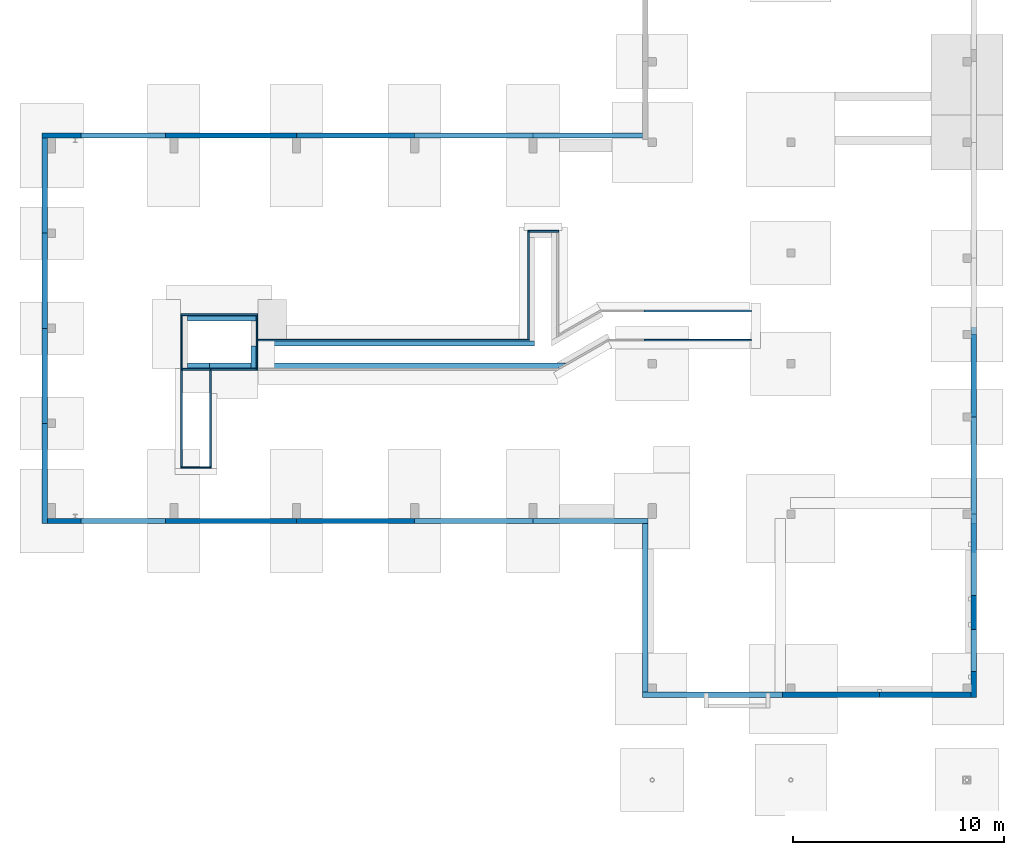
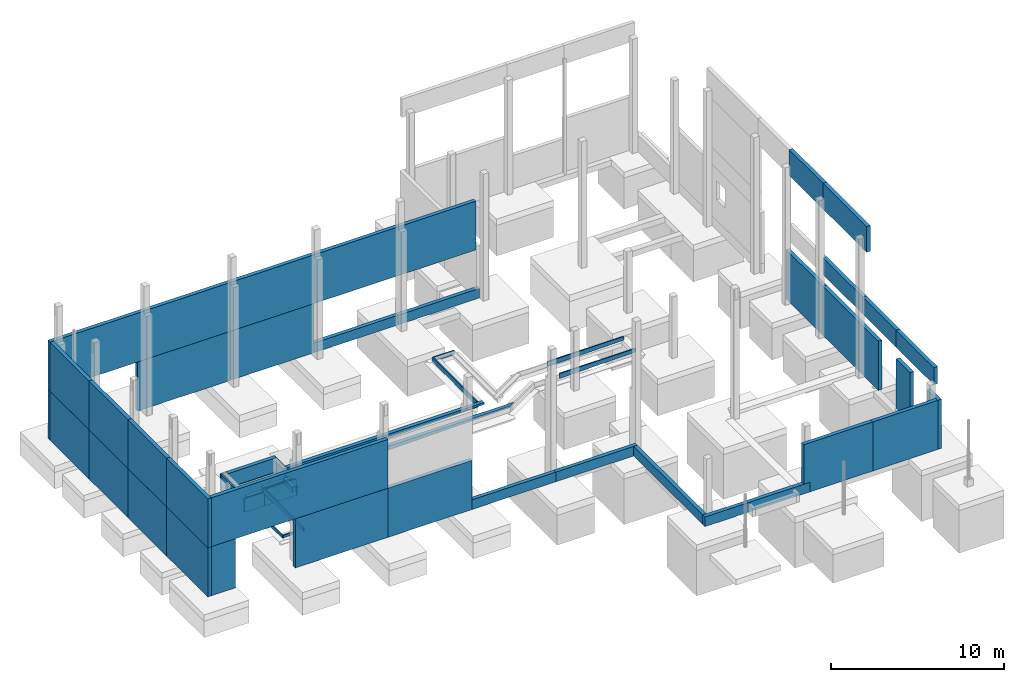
# One storey, part 9 of 12: 53 walls.
"""IFC4X3_ADD2 building model written with IfcOpenShell, lengths in millimetres."""

from ifc_helpers import new_model, si_unit, direction, frame, frame_2d, origin_with_axes, place, context, subcontext, project, spatial, polyline, rectangle, outline, extrude, clip, bounded_halfspace, material, layer, layer_set, type_object, element, save


model = new_model("IFC4X3_ADD2")

# Units and contexts
model_context = context("Model", 3, precision=1e-05, world=origin_with_axes(), true_north=direction((0.0, 1.0)))
body_context = subcontext(model_context, "Body", "Model", "MODEL_VIEW")
ifc_project = project(units=[si_unit("LENGTHUNIT", "METRE", prefix="MILLI"), si_unit("AREAUNIT", "SQUARE_METRE"), si_unit("VOLUMEUNIT", "CUBIC_METRE"), si_unit("PLANEANGLEUNIT", "RADIAN"), si_unit("TIMEUNIT", "SECOND"), si_unit("MASSUNIT", "GRAM")], contexts=[model_context])

# Site, building, storey
site_placement = place(None, origin_with_axes())
site = spatial("IfcSite", under=ifc_project, at=site_placement, Name="Site", CompositionType="ELEMENT")
building_placement = place(site_placement, origin_with_axes())
building = spatial("IfcBuilding", under=site, at=building_placement, Name="IFC Building Story")
storey_placement = place(building_placement, frame((0.0, 0.0, -800.0), z_axis=(0.0, 0.0, 1.0), x_axis=(1.0, 0.0, 0.0)))
storey = spatial("IfcBuildingStorey", under=building, at=storey_placement, Name="FOND 00 (0)", Elevation=-800.0)

# Walls
ifc_material_1 = material(Name="BS_28_Ossature en béton armé - Eléments préfabriqués(panneau façade)")
ifc_layer_1 = layer(ifc_material_1, 90.0)
ifc_material_2 = material(Name="BS_21_Isolation des murs extérieurs")
ifc_layer_2 = layer(ifc_material_2, 100.0)
ifc_layer_3 = layer(ifc_material_1, 60.0)
ifc_layer_set = layer_set([ifc_layer_1, ifc_layer_2, ifc_layer_3], Name="Mur de base:BS_21_WA_BTpréfab90-ISO100-BTlissépréfab60")
wall_type_1 = type_object("IfcWallType", Name="Mur de base:BS_21_WA_BTpréfab90-ISO100-BTlissépréfab60 250", PredefinedType="NOTDEFINED", material=ifc_layer_set)
wall_1_placement = place(storey_placement, origin_with_axes())
element("IfcWall", 1, at=wall_1_placement, inside=storey, type_object=wall_type_1, Name="Mur de base:BS_21_WA_BTpréfab90-ISO100-BTlissépréfab60", ObjectType="Mur de base:BS_21_WA_BTpréfab90-ISO100-BTlissépréfab60", context=body_context, shape_type="SweptSolid", body=[
    extrude(rectangle(XDim=5445.000000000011, YDim=250.0, at=frame_2d((0.0, 5.95523630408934e-12), x_axis=(1.0, 0.0))), frame((30474.1894781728, 18125.0000000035, 50.0), z_axis=(0.0, 0.0, 1.0), x_axis=(1.0, 0.0, 0.0)), (0.0, 0.0, 1.0), 680.0),
])
wall_2_placement = place(storey_placement, origin_with_axes())
element("IfcWall", 2, at=wall_2_placement, inside=storey, type_object=wall_type_1, Name="Mur de base:BS_21_WA_BTpréfab90-ISO100-BTlissépréfab60", ObjectType="Mur de base:BS_21_WA_BTpréfab90-ISO100-BTlissépréfab60", context=body_context, shape_type="SweptSolid", body=[
    extrude(rectangle(XDim=4750.000000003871, YDim=250.0000000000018, at=frame_2d((0.0, 5.95523630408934e-12), x_axis=(0.0, 1.0))), frame((4641.18947818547, 2125.00000000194, 50.0), z_axis=(0.0, 0.0, 1.0), x_axis=(1.0, 0.0, 0.0)), (0.0, 0.0, 1.0), 3469.0),
])
wall_3_placement = place(storey_placement, origin_with_axes())
element("IfcWall", 3, at=wall_3_placement, inside=storey, type_object=wall_type_1, Name="Mur de base:BS_21_WA_BTpréfab90-ISO100-BTlissépréfab60", ObjectType="Mur de base:BS_21_WA_BTpréfab90-ISO100-BTlissépréfab60", context=body_context, shape_type="SweptSolid", body=[
    extrude(rectangle(XDim=5449.999999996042, YDim=250.0, at=frame_2d((0.0, 5.95523630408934e-12), x_axis=(1.0, 0.0))), frame((30476.68947817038, -125.000000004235, 50.0), z_axis=(0.0, 0.0, 1.0), x_axis=(1.0, 0.0, 0.0)), (0.0, 0.0, 1.0), 680.0),
])
wall_4_placement = place(storey_placement, origin_with_axes())
element("IfcWall", 4, at=wall_4_placement, inside=storey, type_object=wall_type_1, Name="Mur de base:BS_21_WA_BTpréfab90-ISO100-BTlissépréfab60", ObjectType="Mur de base:BS_21_WA_BTpréfab90-ISO100-BTlissépréfab60", context=body_context, shape_type="SweptSolid", body=[
    extrude(rectangle(XDim=7979.70991332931, YDim=250.0000000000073, at=frame_2d((0.0, 5.95523630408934e-12), x_axis=(0.0, 1.0))), frame((33076.6894781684, -4239.854956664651, 50.0), z_axis=(0.0, 0.0, 1.0), x_axis=(1.0, 0.0, 0.0)), (0.0, 0.0, 1.0), 680.0),
])
wall_5_placement = place(storey_placement, origin_with_axes())
element("IfcWall", 5, at=wall_5_placement, inside=storey, type_object=wall_type_1, Name="Mur de base:BS_21_WA_BTpréfab90-ISO100-BTlissépréfab60", ObjectType="Mur de base:BS_21_WA_BTpréfab90-ISO100-BTlissépréfab60", context=body_context, shape_type="Clipping", body=[
    clip(extrude(outline(polyline([(2299.999999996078, -125.0), (-2299.999999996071, -125.0), (-2299.999999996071, 125.0), (2299.999999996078, 125.0), (2299.999999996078, -125.0)])), frame((41861.68947816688, -8355.00008672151, 50.0), z_axis=(0.0, 0.0, 1.0), x_axis=(1.0, 0.0, 0.0)), (0.0, 0.0, 1.0), 3469.0), bounded_halfspace(frame((0.0, 0.0, 730.0), z_axis=(0.0, 0.0, -1.0), x_axis=(-1.0, 0.0, 0.0)), False, frame((41861.68947816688, -8355.00008672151, 50.0), z_axis=(0.0, 0.0, 1.0), x_axis=(1.0, 0.0, 0.0)), polyline([(-2299.999999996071, -125.0), (-2299.999999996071, 125.0), (-1899.999999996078, 125.0), (-1899.999999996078, -125.0), (-2299.999999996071, -125.0)]))),
])
wall_6_placement = place(storey_placement, origin_with_axes())
element("IfcWall", 6, at=wall_6_placement, inside=storey, type_object=wall_type_1, Name="Mur de base:BS_21_WA_BTpréfab90-ISO100-BTlissépréfab60", ObjectType="Mur de base:BS_21_WA_BTpréfab90-ISO100-BTlissépréfab60", context=body_context, shape_type="SweptSolid", body=[
    extrude(rectangle(XDim=1599.99999999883, YDim=250.0, at=frame_2d((0.0, 5.95523630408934e-12), x_axis=(1.0, 0.0))), frame((5566.189478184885, -125.000000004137, 50.0), z_axis=(0.0, 0.0, 1.0), x_axis=(1.0, 0.0, 0.0)), (0.0, 0.0, 1.0), 3469.0),
])
wall_7_placement = place(storey_placement, origin_with_axes())
element("IfcWall", 7, at=wall_7_placement, inside=storey, type_object=wall_type_1, Name="Mur de base:BS_21_WA_BTpréfab90-ISO100-BTlissépréfab60", ObjectType="Mur de base:BS_21_WA_BTpréfab90-ISO100-BTlissépréfab60", context=body_context, shape_type="SweptSolid", body=[
    extrude(rectangle(XDim=6185.499999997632, YDim=250.0, at=frame_2d((0.0, 5.95523630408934e-12), x_axis=(1.0, 0.0))), frame((13458.93947818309, -125.000000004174, 50.0), z_axis=(0.0, 0.0, 1.0), x_axis=(1.0, 0.0, 0.0)), (0.0, 0.0, 1.0), 3469.0),
])
wall_8_placement = place(storey_placement, origin_with_axes())
element("IfcWall", 8, at=wall_8_placement, inside=storey, type_object=wall_type_1, Name="Mur de base:BS_21_WA_BTpréfab90-ISO100-BTlissépréfab60", ObjectType="Mur de base:BS_21_WA_BTpréfab90-ISO100-BTlissépréfab60", context=body_context, shape_type="SweptSolid", body=[
    extrude(rectangle(XDim=5599.999999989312, YDim=250.0, at=frame_2d((0.0, 5.95523630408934e-12), x_axis=(1.0, 0.0))), frame((19351.68947817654, -125.000000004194, 50.0), z_axis=(0.0, 0.0, 1.0), x_axis=(1.0, 0.0, 0.0)), (0.0, 0.0, 1.0), 3469.0),
])
wall_9_placement = place(storey_placement, origin_with_axes())
element("IfcWall", 9, at=wall_9_placement, inside=storey, type_object=wall_type_1, Name="Mur de base:BS_21_WA_BTpréfab90-ISO100-BTlissépréfab60", ObjectType="Mur de base:BS_21_WA_BTpréfab90-ISO100-BTlissépréfab60", context=body_context, shape_type="SweptSolid", body=[
    extrude(rectangle(XDim=5600.00000000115, YDim=250.0, at=frame_2d((0.0, 5.95523630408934e-12), x_axis=(1.0, 0.0))), frame((24951.68947817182, -125.000000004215, 50.0), z_axis=(0.0, 0.0, 1.0), x_axis=(1.0, 0.0, 0.0)), (0.0, 0.0, 1.0), 680.0),
])
wall_10_placement = place(storey_placement, origin_with_axes())
element("IfcWall", 10, at=wall_10_placement, inside=storey, type_object=wall_type_1, Name="Mur de base:BS_21_WA_BTpréfab90-ISO100-BTlissépréfab60", ObjectType="Mur de base:BS_21_WA_BTpréfab90-ISO100-BTlissépréfab60", context=body_context, shape_type="SweptSolid", body=[
    extrude(rectangle(XDim=11785.4999999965, YDim=250.0, at=frame_2d((0.0, 5.95523630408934e-12), x_axis=(1.0, 0.0))), frame((10658.93947818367, -125.000000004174, 3520.0), z_axis=(0.0, 0.0, 1.0), x_axis=(1.0, 0.0, 0.0)), (0.0, 0.0, 1.0), 3445.0),
])
wall_11_placement = place(storey_placement, origin_with_axes())
element("IfcWall", 11, at=wall_11_placement, inside=storey, type_object=wall_type_1, Name="Mur de base:BS_21_WA_BTpréfab90-ISO100-BTlissépréfab60", ObjectType="Mur de base:BS_21_WA_BTpréfab90-ISO100-BTlissépréfab60", context=body_context, shape_type="SweptSolid", body=[
    extrude(rectangle(XDim=4339.999999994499, YDim=250.0, at=frame_2d((0.0, 5.95523630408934e-12), x_axis=(1.0, 0.0))), frame((46331.68947816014, -8355.00008672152, 50.0), z_axis=(0.0, 0.0, 1.0), x_axis=(1.0, 0.0, 0.0)), (0.0, 0.0, 1.0), 3469.0),
])
wall_12_placement = place(storey_placement, origin_with_axes())
element("IfcWall", 12, at=wall_12_placement, inside=storey, type_object=wall_type_1, Name="Mur de base:BS_21_WA_BTpréfab90-ISO100-BTlissépréfab60", ObjectType="Mur de base:BS_21_WA_BTpréfab90-ISO100-BTlissépréfab60", context=body_context, shape_type="SweptSolid", body=[
    extrude(rectangle(XDim=4750.000000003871, YDim=250.0000000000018, at=frame_2d((0.0, 5.95523630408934e-12), x_axis=(0.0, 1.0))), frame((4641.18947818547, 2125.00000000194, 3520.0), z_axis=(0.0, 0.0, 1.0), x_axis=(1.0, 0.0, 0.0)), (0.0, 0.0, 1.0), 3445.0),
])
wall_13_placement = place(storey_placement, origin_with_axes())
element("IfcWall", 13, at=wall_13_placement, inside=storey, type_object=wall_type_1, Name="Mur de base:BS_21_WA_BTpréfab90-ISO100-BTlissépréfab60", ObjectType="Mur de base:BS_21_WA_BTpréfab90-ISO100-BTlissépréfab60", context=body_context, shape_type="SweptSolid", body=[
    extrude(rectangle(XDim=4500.000000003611, YDim=250.0000000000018, at=frame_2d((0.0, 5.95523630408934e-12), x_axis=(0.0, 1.0))), frame((4641.18947818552, 15750.0000000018, 3520.0), z_axis=(0.0, 0.0, 1.0), x_axis=(1.0, 0.0, 0.0)), (0.0, 0.0, 1.0), 3445.0),
])
wall_14_placement = place(storey_placement, origin_with_axes())
element("IfcWall", 14, at=wall_14_placement, inside=storey, type_object=wall_type_1, Name="Mur de base:BS_21_WA_BTpréfab90-ISO100-BTlissépréfab60", ObjectType="Mur de base:BS_21_WA_BTpréfab90-ISO100-BTlissépréfab60", context=body_context, shape_type="SweptSolid", body=[
    extrude(rectangle(XDim=4500.00000000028, YDim=250.0000000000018, at=frame_2d((0.0, 5.95523630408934e-12), x_axis=(0.0, 1.0))), frame((4641.1894781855, 11250.00000000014, 3520.0), z_axis=(0.0, 0.0, 1.0), x_axis=(1.0, 0.0, 0.0)), (0.0, 0.0, 1.0), 3445.0),
])
wall_15_placement = place(storey_placement, origin_with_axes())
element("IfcWall", 15, at=wall_15_placement, inside=storey, type_object=wall_type_1, Name="Mur de base:BS_21_WA_BTpréfab90-ISO100-BTlissépréfab60", ObjectType="Mur de base:BS_21_WA_BTpréfab90-ISO100-BTlissépréfab60", context=body_context, shape_type="SweptSolid", body=[
    extrude(rectangle(XDim=4499.999999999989, YDim=250.0, at=frame_2d((0.0, 5.95523630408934e-12), x_axis=(0.0, 1.0))), frame((4641.18947818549, 6750.0, 3520.0), z_axis=(0.0, 0.0, 1.0), x_axis=(1.0, 0.0, 0.0)), (0.0, 0.0, 1.0), 3445.0),
])
wall_16_placement = place(storey_placement, origin_with_axes())
element("IfcWall", 16, at=wall_16_placement, inside=storey, type_object=wall_type_1, Name="Mur de base:BS_21_WA_BTpréfab90-ISO100-BTlissépréfab60", ObjectType="Mur de base:BS_21_WA_BTpréfab90-ISO100-BTlissépréfab60", context=body_context, shape_type="SweptSolid", body=[
    extrude(rectangle(XDim=4500.000000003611, YDim=250.0000000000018, at=frame_2d((0.0, 5.95523630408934e-12), x_axis=(0.0, 1.0))), frame((4641.18947818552, 15750.0000000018, 50.0), z_axis=(0.0, 0.0, 1.0), x_axis=(1.0, 0.0, 0.0)), (0.0, 0.0, 1.0), 3469.0),
])
wall_17_placement = place(storey_placement, origin_with_axes())
element("IfcWall", 17, at=wall_17_placement, inside=storey, type_object=wall_type_1, Name="Mur de base:BS_21_WA_BTpréfab90-ISO100-BTlissépréfab60", ObjectType="Mur de base:BS_21_WA_BTpréfab90-ISO100-BTlissépréfab60", context=body_context, shape_type="SweptSolid", body=[
    extrude(rectangle(XDim=4500.00000000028, YDim=250.0000000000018, at=frame_2d((0.0, 5.95523630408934e-12), x_axis=(0.0, 1.0))), frame((4641.1894781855, 11250.00000000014, 50.0), z_axis=(0.0, 0.0, 1.0), x_axis=(1.0, 0.0, 0.0)), (0.0, 0.0, 1.0), 3469.0),
])
wall_18_placement = place(storey_placement, origin_with_axes())
element("IfcWall", 18, at=wall_18_placement, inside=storey, type_object=wall_type_1, Name="Mur de base:BS_21_WA_BTpréfab90-ISO100-BTlissépréfab60", ObjectType="Mur de base:BS_21_WA_BTpréfab90-ISO100-BTlissépréfab60", context=body_context, shape_type="SweptSolid", body=[
    extrude(rectangle(XDim=4499.99999999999, YDim=250.0, at=frame_2d((0.0, 5.95523630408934e-12), x_axis=(0.0, 1.0))), frame((4641.18947818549, 6749.999999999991, 50.0), z_axis=(0.0, 0.0, 1.0), x_axis=(1.0, 0.0, 0.0)), (0.0, 0.0, 1.0), 3469.0),
])
wall_19_placement = place(storey_placement, origin_with_axes())
element("IfcWall", 19, at=wall_19_placement, inside=storey, type_object=wall_type_1, Name="Mur de base:BS_21_WA_BTpréfab90-ISO100-BTlissépréfab60", ObjectType="Mur de base:BS_21_WA_BTpréfab90-ISO100-BTlissépréfab60", context=body_context, shape_type="SweptSolid", body=[
    extrude(rectangle(XDim=16400.0000000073, YDim=250.0, at=frame_2d((0.0, 5.95523630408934e-12), x_axis=(1.0, 0.0))), frame((24751.68947818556, 18125.0000000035, 3520.0), z_axis=(0.0, 0.0, 1.0), x_axis=(1.0, 0.0, 0.0)), (0.0, 0.0, 1.0), 3445.0),
])
wall_20_placement = place(storey_placement, origin_with_axes())
element("IfcWall", 20, at=wall_20_placement, inside=storey, type_object=wall_type_1, Name="Mur de base:BS_21_WA_BTpréfab90-ISO100-BTlissépréfab60", ObjectType="Mur de base:BS_21_WA_BTpréfab90-ISO100-BTlissépréfab60", context=body_context, shape_type="SweptSolid", body=[
    extrude(rectangle(XDim=1850.0, YDim=250.0, at=frame_2d((0.0, 5.95523630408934e-12), x_axis=(1.0, 0.0))), frame((5441.189478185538, 18125.0000000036, 50.0), z_axis=(0.0, 0.0, 1.0), x_axis=(1.0, 0.0, 0.0)), (0.0, 0.0, 1.0), 3469.0),
])
wall_21_placement = place(storey_placement, origin_with_axes())
element("IfcWall", 21, at=wall_21_placement, inside=storey, type_object=wall_type_1, Name="Mur de base:BS_21_WA_BTpréfab90-ISO100-BTlissépréfab60", ObjectType="Mur de base:BS_21_WA_BTpréfab90-ISO100-BTlissépréfab60", context=body_context, shape_type="SweptSolid", body=[
    extrude(rectangle(XDim=6185.49999999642, YDim=250.0, at=frame_2d((0.0, 5.95523630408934e-12), x_axis=(1.0, 0.0))), frame((13458.93947818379, 18125.0000000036, 50.0), z_axis=(0.0, 0.0, 1.0), x_axis=(1.0, 0.0, 0.0)), (0.0, 0.0, 1.0), 3469.0),
])
wall_22_placement = place(storey_placement, origin_with_axes())
element("IfcWall", 22, at=wall_22_placement, inside=storey, type_object=wall_type_1, Name="Mur de base:BS_21_WA_BTpréfab90-ISO100-BTlissépréfab60", ObjectType="Mur de base:BS_21_WA_BTpréfab90-ISO100-BTlissépréfab60", context=body_context, shape_type="SweptSolid", body=[
    extrude(rectangle(XDim=5574.999999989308, YDim=250.0, at=frame_2d((0.0, 5.95523630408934e-12), x_axis=(1.0, 0.0))), frame((19364.18947817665, 18125.0000000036, 50.0), z_axis=(0.0, 0.0, 1.0), x_axis=(1.0, 0.0, 0.0)), (0.0, 0.0, 1.0), 3469.0),
])
wall_23_placement = place(storey_placement, origin_with_axes())
element("IfcWall", 23, at=wall_23_placement, inside=storey, type_object=wall_type_1, Name="Mur de base:BS_21_WA_BTpréfab90-ISO100-BTlissépréfab60", ObjectType="Mur de base:BS_21_WA_BTpréfab90-ISO100-BTlissépréfab60", context=body_context, shape_type="SweptSolid", body=[
    extrude(rectangle(XDim=5600.000000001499, YDim=250.0, at=frame_2d((0.0, 5.95523630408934e-12), x_axis=(1.0, 0.0))), frame((24951.68947817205, 18125.0000000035, 50.0), z_axis=(0.0, 0.0, 1.0), x_axis=(1.0, 0.0, 0.0)), (0.0, 0.0, 1.0), 680.0),
])
wall_24_placement = place(storey_placement, origin_with_axes())
element("IfcWall", 24, at=wall_24_placement, inside=storey, type_object=wall_type_1, Name="Mur de base:BS_21_WA_BTpréfab90-ISO100-BTlissépréfab60", ObjectType="Mur de base:BS_21_WA_BTpréfab90-ISO100-BTlissépréfab60", context=body_context, shape_type="SweptSolid", body=[
    extrude(rectangle(XDim=12035.4999999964, YDim=249.9999999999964, at=frame_2d((0.0, 5.95523630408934e-12), x_axis=(1.0, 0.0))), frame((10533.93947818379, 18125.0000000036, 3520.0), z_axis=(0.0, 0.0, 1.0), x_axis=(1.0, 0.0, 0.0)), (0.0, 0.0, 1.0), 3445.0),
])
wall_25_placement = place(storey_placement, origin_with_axes())
element("IfcWall", 25, at=wall_25_placement, inside=storey, type_object=wall_type_1, Name="Mur de base:BS_21_WA_BTpréfab90-ISO100-BTlissépréfab60", ObjectType="Mur de base:BS_21_WA_BTpréfab90-ISO100-BTlissépréfab60", context=body_context, shape_type="SweptSolid", body=[
    extrude(rectangle(XDim=5049.419826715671, YDim=249.9999999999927, at=frame_2d((0.0, 5.95523630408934e-12), x_axis=(0.0, 1.0))), frame((48626.68947815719, 2274.70991335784, 8976.0), z_axis=(0.0, 0.0, 1.0), x_axis=(1.0, 0.0, 0.0)), (0.0, 0.0, 1.0), 1814.0),
])
wall_26_placement = place(storey_placement, origin_with_axes())
element("IfcWall", 26, at=wall_26_placement, inside=storey, type_object=wall_type_1, Name="Mur de base:BS_21_WA_BTpréfab90-ISO100-BTlissépréfab60", ObjectType="Mur de base:BS_21_WA_BTpréfab90-ISO100-BTlissépréfab60", context=body_context, shape_type="SweptSolid", body=[
    extrude(rectangle(XDim=4255.0, YDim=250.0, at=frame_2d((0.0, 5.95523630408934e-12), x_axis=(0.0, 1.0))), frame((48626.68947815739, 6926.919826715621, 50.0), z_axis=(0.0, 0.0, 1.0), x_axis=(1.0, 0.0, 0.0)), (0.0, 0.0, 1.0), 3470.0),
])
wall_27_placement = place(storey_placement, origin_with_axes())
element("IfcWall", 27, at=wall_27_placement, inside=storey, type_object=wall_type_1, Name="Mur de base:BS_21_WA_BTpréfab90-ISO100-BTlissépréfab60", ObjectType="Mur de base:BS_21_WA_BTpréfab90-ISO100-BTlissépréfab60", context=body_context, shape_type="SweptSolid", body=[
    extrude(rectangle(XDim=3910.580173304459, YDim=249.9999999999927, at=frame_2d((0.0, 5.95523630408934e-12), x_axis=(0.0, 1.0))), frame((48626.6894781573, 6754.70991336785, 8976.0), z_axis=(0.0, 0.0, 1.0), x_axis=(1.0, 0.0, 0.0)), (0.0, 0.0, 1.0), 1814.0),
])
wall_28_placement = place(storey_placement, origin_with_axes())
element("IfcWall", 28, at=wall_28_placement, inside=storey, type_object=wall_type_1, Name="Mur de base:BS_21_WA_BTpréfab90-ISO100-BTlissépréfab60", ObjectType="Mur de base:BS_21_WA_BTpréfab90-ISO100-BTlissépréfab60", context=body_context, shape_type="SweptSolid", body=[
    extrude(rectangle(XDim=3854.99991331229, YDim=250.0, at=frame_2d((0.0, 5.95523630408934e-12), x_axis=(0.0, 1.0))), frame((48626.68947815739, -1727.49995665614, 4345.0), z_axis=(0.0, 0.0, 1.0), x_axis=(1.0, 0.0, 0.0)), (0.0, 0.0, 1.0), 1199.0),
])
wall_29_placement = place(storey_placement, origin_with_axes())
element("IfcWall", 29, at=wall_29_placement, inside=storey, type_object=wall_type_1, Name="Mur de base:BS_21_WA_BTpréfab90-ISO100-BTlissépréfab60", ObjectType="Mur de base:BS_21_WA_BTpréfab90-ISO100-BTlissépréfab60", context=body_context, shape_type="SweptSolid", body=[
    extrude(rectangle(XDim=4375.000173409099, YDim=249.9999999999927, at=frame_2d((0.0, 5.95523630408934e-12), x_axis=(0.0, 1.0))), frame((48626.68947815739, -5842.50000001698, 4345.0), z_axis=(0.0, 0.0, 1.0), x_axis=(1.0, 0.0, 0.0)), (0.0, 0.0, 1.0), 1199.0),
])
wall_30_placement = place(storey_placement, origin_with_axes())
element("IfcWall", 30, at=wall_30_placement, inside=storey, type_object=wall_type_1, Name="Mur de base:BS_21_WA_BTpréfab90-ISO100-BTlissépréfab60", ObjectType="Mur de base:BS_21_WA_BTpréfab90-ISO100-BTlissépréfab60", context=body_context, shape_type="SweptSolid", body=[
    extrude(rectangle(XDim=4599.41982671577, YDim=249.9999999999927, at=frame_2d((0.0, 5.95523630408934e-12), x_axis=(0.0, 1.0))), frame((48626.6894781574, 2499.70991335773, 4345.0), z_axis=(0.0, 0.0, 1.0), x_axis=(1.0, 0.0, 0.0)), (0.0, 0.0, 1.0), 1199.00000000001),
])
wall_31_placement = place(storey_placement, origin_with_axes())
element("IfcWall", 31, at=wall_31_placement, inside=storey, type_object=wall_type_1, Name="Mur de base:BS_21_WA_BTpréfab90-ISO100-BTlissépréfab60", ObjectType="Mur de base:BS_21_WA_BTpréfab90-ISO100-BTlissépréfab60", context=body_context, shape_type="SweptSolid", body=[
    extrude(rectangle(XDim=6404.999999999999, YDim=249.9999999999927, at=frame_2d((0.0, 5.95523630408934e-12), x_axis=(0.0, 1.0))), frame((48626.68947815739, 1596.91982671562, 50.0), z_axis=(0.0, 0.0, 1.0), x_axis=(1.0, 0.0, 0.0)), (0.0, 0.0, 1.0), 3470.0),
])
wall_32_placement = place(storey_placement, origin_with_axes())
element("IfcWall", 32, at=wall_32_placement, inside=storey, type_object=wall_type_1, Name="Mur de base:BS_21_WA_BTpréfab90-ISO100-BTlissépréfab60", ObjectType="Mur de base:BS_21_WA_BTpréfab90-ISO100-BTlissépréfab60", context=body_context, shape_type="SweptSolid", body=[
    extrude(rectangle(XDim=1600.0, YDim=250.0, at=frame_2d((0.0, 5.95523630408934e-12), x_axis=(0.0, 1.0))), frame((48626.68947815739, -4454.99991331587, 50.0), z_axis=(0.0, 0.0, 1.0), x_axis=(1.0, 0.0, 0.0)), (0.0, 0.0, 1.0), 3469.0),
])
wall_33_placement = place(storey_placement, origin_with_axes())
element("IfcWall", 33, at=wall_33_placement, inside=storey, type_object=wall_type_1, Name="Mur de base:BS_21_WA_BTpréfab90-ISO100-BTlissépréfab60", ObjectType="Mur de base:BS_21_WA_BTpréfab90-ISO100-BTlissépréfab60", context=body_context, shape_type="SweptSolid", body=[
    extrude(rectangle(XDim=1225.000173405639, YDim=250.0000000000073, at=frame_2d((0.0, 5.95523630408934e-12), x_axis=(0.0, 1.0))), frame((48626.68947815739, -7867.500000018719, 50.0), z_axis=(0.0, 0.0, 1.0), x_axis=(1.0, 0.0, 0.0)), (0.0, 0.0, 1.0), 3469.0),
])
wall_34_placement = place(storey_placement, origin_with_axes())
element("IfcWall", 34, at=wall_34_placement, inside=storey, type_object=wall_type_1, Name="Mur de base:BS_21_WA_BTpréfab90-ISO100-BTlissépréfab60", ObjectType="Mur de base:BS_21_WA_BTpréfab90-ISO100-BTlissépréfab60", context=body_context, shape_type="SweptSolid", body=[
    extrude(rectangle(XDim=7009.999999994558, YDim=249.9999999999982, at=frame_2d((0.0, 5.95523630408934e-12), x_axis=(1.0, 0.0))), frame((36456.68947816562, -8354.70991333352, 50.0), z_axis=(0.0, 0.0, 1.0), x_axis=(1.0, 0.0, 0.0)), (0.0, 0.0, 1.0), 680.0),
])
ifc_material_3 = material(Name="BS_28_Ossature en béton armé - Eléments coulé sur place")
wall_type_2 = type_object("IfcWallType", Name="Mur de base:BS_28_WA_BTcoulé250", PredefinedType="NOTDEFINED", material=ifc_material_3)
wall_35_placement = place(storey_placement, origin_with_axes())
element("IfcWall", 35, at=wall_35_placement, inside=storey, type_object=wall_type_2, Name="Mur de base:BS_28_WA_BTcoulé250", ObjectType="Mur de base:BS_28_WA_BTcoulé250", context=body_context, shape_type="SweptSolid", body=[
    extrude(rectangle(XDim=3250.000000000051, YDim=250.0, at=frame_2d((0.0, 5.95523630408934e-12), x_axis=(1.0, 0.0))), frame((13026.68947818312, 9475.00000000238, -480.0), z_axis=(0.0, 0.0, 1.0), x_axis=(1.0, 0.0, 0.0)), (0.0, 0.0, 1.0), 1000.0),
])
wall_36_placement = place(storey_placement, origin_with_axes())
element("IfcWall", 36, at=wall_36_placement, inside=storey, type_object=wall_type_2, Name="Mur de base:BS_28_WA_BTcoulé250", ObjectType="Mur de base:BS_28_WA_BTcoulé250", context=body_context, shape_type="Clipping", body=[
    clip(extrude(outline(polyline([(1500.000000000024, -125.0), (-1500.000000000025, -125.0), (-1500.000000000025, 125.0), (1500.000000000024, 125.0), (1500.000000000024, -125.0)])), frame((12901.68947818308, 7225.00000000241, -480.0), z_axis=(0.0, 0.0, 1.0), x_axis=(1.0, 0.0, 0.0)), (0.0, 0.0, 1.0), 1000.0), bounded_halfspace(frame((0.0, -8.256697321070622, 387.1651339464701), z_axis=(0.0, 0.0199960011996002, 0.999800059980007), x_axis=(-1.0, 0.0, 0.0)), False, frame((12901.68947818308, 7225.00000000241, -480.0), z_axis=(0.0, 0.0, 1.0), x_axis=(1.0, 0.0, 0.0)), polyline([(-1500.000000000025, -125.0), (-449.9999999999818, -125.0), (-449.9999999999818, 125.0), (-1500.000000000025, 125.0), (-1500.000000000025, -125.0)]))),
])
wall_37_placement = place(storey_placement, origin_with_axes())
element("IfcWall", 37, at=wall_37_placement, inside=storey, type_object=wall_type_2, Name="Mur de base:BS_28_WA_BTcoulé250", ObjectType="Mur de base:BS_28_WA_BTcoulé250", context=body_context, shape_type="Clipping", body=[
    clip(clip(extrude(outline(polyline([(-124.9999999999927, -525.0), (-125.0000000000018, 525.0), (124.9999999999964, 525.0), (124.9999999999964, -525.0), (-124.9999999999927, -525.0)])), frame((14526.6894781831, 7625.0, -480.0), z_axis=(0.0, 0.0, 1.0), x_axis=(1.0, 0.0, 0.0)), (0.0, 0.0, 1.0), 355.094804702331), bounded_halfspace(frame((24.92352495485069, 0.0, -422.987259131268), z_axis=(-0.0203749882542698, 0.0, 0.9997924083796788), x_axis=(0.0, -1.0, 0.0)), False, frame((14526.6894781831, 7625.0, -480.0), z_axis=(0.0, 0.0, 1.0), x_axis=(1.0, 0.0, 0.0)), polyline([(-125.0000000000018, 525.0), (-124.9999999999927, -525.0), (124.9999999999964, -500.3507773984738), (124.9999999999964, 525.0), (-125.0000000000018, 525.0)]))), bounded_halfspace(frame((24.88740066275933, 5.966970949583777, -450.0835131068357), z_axis=(-0.0199044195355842, -0.00477225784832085, 0.9997904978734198), x_axis=(0.2331510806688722, -0.9724405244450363, 0.0)), False, frame((14526.6894781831, 7625.0, -480.0), z_axis=(0.0, 0.0, 1.0), x_axis=(1.0, 0.0, 0.0)), polyline([(124.9999999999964, -525.0), (124.9999999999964, -500.3507773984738), (-124.9999999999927, -525.0), (124.9999999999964, -525.0)]))),
])
wall_38_placement = place(storey_placement, origin_with_axes())
element("IfcWall", 38, at=wall_38_placement, inside=storey, type_object=wall_type_2, Name="Mur de base:BS_28_WA_BTcoulé250", ObjectType="Mur de base:BS_28_WA_BTcoulé250", context=body_context, shape_type="Clipping", body=[
    clip(clip(clip(extrude(outline(polyline([(-6592.49999997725, 125.0), (6592.499999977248, 125.0), (6592.499999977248, -125.0), (-6592.499999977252, -125.0), (-6592.49999997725, 125.0)])), frame((21244.18947816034, 8275.00000000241, 125.094804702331), z_axis=(0.0, 0.0, 1.0), x_axis=(1.0, 0.0, 0.0)), (0.0, 0.0, 1.0), 394.905195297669), bounded_halfspace(frame((19.83083531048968, 0.0, -173.0910441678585), z_axis=(0.0203749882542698, 0.0, -0.9997924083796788), x_axis=(0.0, 1.0, 0.0)), False, frame((21244.18947816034, 8275.00000000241, 125.094804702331), z_axis=(0.0, 0.0, 1.0), x_axis=(1.0, 0.0, 0.0)), polyline([(3806.923076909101, -125.0), (-6592.499999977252, -125.0), (-6592.49999997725, 125.0), (6342.499999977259, 125.0), (3806.923076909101, -125.0)]))), bounded_halfspace(frame((19.9123382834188, 4.774156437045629, -200.1882531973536), z_axis=(0.0199044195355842, 0.004772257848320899, -0.9997904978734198), x_axis=(-0.2331510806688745, 0.9724405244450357, 0.0)), False, frame((21244.18947816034, 8275.00000000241, 125.094804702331), z_axis=(0.0, 0.0, 1.0), x_axis=(1.0, 0.0, 0.0)), polyline([(6592.499999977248, -125.0), (3806.923076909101, -125.0), (6342.499999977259, 125.0), (6592.499999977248, -119.1137321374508), (6592.499999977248, -125.0)]))), bounded_halfspace(frame((9.286534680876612, -1.988523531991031, 63.61194836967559), z_axis=(0.01260987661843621, -0.002700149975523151, -0.9999168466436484), x_axis=(-0.999920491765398, 0.0, -0.01260992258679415)), False, frame((21244.18947816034, 8275.00000000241, 125.094804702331), z_axis=(0.0, 0.0, 1.0), x_axis=(1.0, 0.0, 0.0)), polyline([(6342.499999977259, 125.0), (6592.499999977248, 125.0), (6592.499999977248, -119.1137321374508), (6342.499999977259, 125.0)]))),
])
wall_39_placement = place(storey_placement, origin_with_axes())
element("IfcWall", 39, at=wall_39_placement, inside=storey, type_object=wall_type_2, Name="Mur de base:BS_28_WA_BTcoulé250", ObjectType="Mur de base:BS_28_WA_BTcoulé250", context=body_context, shape_type="Clipping", body=[
    clip(clip(clip(clip(extrude(outline(polyline([(-7366.426501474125, 125.0), (7582.932852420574, 124.9999999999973), (7149.920150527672, -125.0), (-7366.426501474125, -125.0), (-7366.426501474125, 125.0)])), frame((21768.11597965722, 7225.000000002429, 120.0), z_axis=(0.0, 0.0, 1.0), x_axis=(1.0, 0.0, 0.0)), (0.0, 0.0, 1.0), 400.0), bounded_halfspace(frame((9.286534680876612, -1.988523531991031, 63.61194836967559), z_axis=(0.01260987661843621, -0.002700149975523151, -0.9999168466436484), x_axis=(-0.999920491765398, 0.0, -0.01260992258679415)), False, frame((21768.11597965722, 7225.000000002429, 120.0), z_axis=(0.0, 0.0, 1.0), x_axis=(1.0, 0.0, 0.0)), polyline([(6893.891948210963, 125.0), (7144.635864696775, 125.0), (7149.920150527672, -125.0), (6893.891948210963, 125.0)]))), bounded_halfspace(frame((26.50960776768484, -2.648925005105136, -281.6765634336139), z_axis=(0.02450045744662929, -0.002448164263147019, -0.9996968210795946), x_axis=(0.09942806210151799, 0.9950447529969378, 0.0)), False, frame((21768.11597965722, 7225.000000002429, 120.0), z_axis=(0.0, 0.0, 1.0), x_axis=(1.0, 0.0, 0.0)), polyline([(7582.932852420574, 124.9999999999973), (7149.920150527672, -125.0), (7144.635864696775, 125.0), (7582.932852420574, 124.9999999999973)]))), bounded_halfspace(frame((19.83083531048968, 0.0, -173.0910441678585), z_axis=(0.0203749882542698, 0.0, -0.9997924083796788), x_axis=(0.0, 1.0, 0.0)), False, frame((21768.11597965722, 7225.000000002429, 120.0), z_axis=(0.0, 0.0, 1.0), x_axis=(1.0, 0.0, 0.0)), polyline([(-7366.426501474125, 125.0), (-4830.84957840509, 125.0000000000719), (-7366.426501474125, -125.0), (-7366.426501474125, 125.0)]))), bounded_halfspace(frame((19.9123382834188, 4.774156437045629, -200.1882531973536), z_axis=(0.0199044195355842, 0.004772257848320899, -0.9997904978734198), x_axis=(-0.2331510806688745, 0.9724405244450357, 0.0)), False, frame((21768.11597965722, 7225.000000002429, 120.0), z_axis=(0.0, 0.0, 1.0), x_axis=(1.0, 0.0, 0.0)), polyline([(-4830.84957840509, 125.0000000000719), (6893.891948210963, 125.0), (7149.920150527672, -125.0), (-7366.426501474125, -125.0), (-4830.84957840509, 125.0000000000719)]))),
])
ifc_material_4 = material(Name="BS_13_Isolation sur sols XPS")
wall_type_3 = type_object("IfcWallType", Name="Mur de base:BS_13_WA_XPS80", PredefinedType="NOTDEFINED", material=ifc_material_4)
wall_40_placement = place(storey_placement, origin_with_axes())
element("IfcWall", 40, at=wall_40_placement, inside=storey, type_object=wall_type_3, Name="Mur de base:BS_13_WA_XPS80", ObjectType="Mur de base:BS_13_WA_XPS80", context=body_context, shape_type="SweptSolid", body=[
    extrude(rectangle(XDim=1460.00000000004, YDim=80.0, at=frame_2d((0.0, 5.95523630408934e-12), x_axis=(1.0, 0.0))), frame((11801.68947818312, 2410.0, 335.0), z_axis=(0.0, 0.0, 1.0), x_axis=(1.0, 0.0, 0.0)), (0.0, 0.0, 1.0), 185.0),
])
wall_41_placement = place(storey_placement, origin_with_axes())
element("IfcWall", 41, at=wall_41_placement, inside=storey, type_object=wall_type_3, Name="Mur de base:BS_13_WA_XPS80", ObjectType="Mur de base:BS_13_WA_XPS80", context=body_context, shape_type="SweptSolid", body=[
    extrude(rectangle(XDim=1340.000000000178, YDim=80.0, at=frame_2d((0.0, 5.95523630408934e-12), x_axis=(1.0, 0.0))), frame((11821.68947818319, 7060.0, -730.0), z_axis=(0.0, 0.0, 1.0), x_axis=(1.0, 0.0, 0.0)), (0.0, 0.0, 1.0), 975.0),
])
wall_42_placement = place(storey_placement, origin_with_axes())
element("IfcWall", 42, at=wall_42_placement, inside=storey, type_object=wall_type_3, Name="Mur de base:BS_13_WA_XPS80", ObjectType="Mur de base:BS_13_WA_XPS80", context=body_context, shape_type="SweptSolid", body=[
    extrude(rectangle(XDim=3660.00000000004, YDim=79.99999999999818, at=frame_2d((0.0, 5.95523630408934e-12), x_axis=(1.0, 0.0))), frame((12901.68947818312, 9640.0, -730.0), z_axis=(0.0, 0.0, 1.0), x_axis=(1.0, 0.0, 0.0)), (0.0, 0.0, 1.0), 1170.0),
])
wall_43_placement = place(storey_placement, origin_with_axes())
element("IfcWall", 43, at=wall_43_placement, inside=storey, type_object=wall_type_3, Name="Mur de base:BS_13_WA_XPS80", ObjectType="Mur de base:BS_13_WA_XPS80", context=body_context, shape_type="SweptSolid", body=[
    extrude(rectangle(XDim=1199.99999999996, YDim=80.0, at=frame_2d((0.0, 5.95523630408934e-12), x_axis=(0.0, 1.0))), frame((14691.6894781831, 8999.99999999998, -730.0), z_axis=(0.0, 0.0, 1.0), x_axis=(1.0, 0.0, 0.0)), (0.0, 0.0, 1.0), 1170.0),
])
wall_44_placement = place(storey_placement, origin_with_axes())
element("IfcWall", 44, at=wall_44_placement, inside=storey, type_object=wall_type_3, Name="Mur de base:BS_13_WA_XPS80", ObjectType="Mur de base:BS_13_WA_XPS80", context=body_context, shape_type="Clipping", body=[
    clip(extrude(outline(polyline([(-6427.49999997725, 40.0), (6427.499999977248, 40.0), (6427.499999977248, -40.0), (-6427.499999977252, -40.0), (-6427.49999997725, 40.0)])), frame((21159.18947816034, 8440.0, -123.274857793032), z_axis=(0.0, 0.0, 1.0), x_axis=(1.0, 0.0, 0.0)), (0.0, 0.0, 1.0), 563.274857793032), bounded_halfspace(frame((24.92352495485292, 0.0, -422.9872591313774), z_axis=(0.0203749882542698, 0.0, -0.9997924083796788), x_axis=(0.0, 1.0, 0.0)), False, frame((21159.18947816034, 8440.0, -123.274857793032), z_axis=(0.0, 0.0, 1.0), x_axis=(1.0, 0.0, 0.0)), polyline([(-6427.49999997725, 40.0), (6427.499999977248, 40.0), (6427.499999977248, -40.0), (-6427.499999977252, -40.0), (-6427.49999997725, 40.0)]))),
])
wall_45_placement = place(storey_placement, origin_with_axes())
element("IfcWall", 45, at=wall_45_placement, inside=storey, type_object=wall_type_3, Name="Mur de base:BS_13_WA_XPS80", ObjectType="Mur de base:BS_13_WA_XPS80", context=body_context, shape_type="Clipping", body=[
    clip(extrude(outline(polyline([(40.0, 2284.99999999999), (40.0, -2284.99999999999), (-39.99999999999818, -2284.99999999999), (-39.99999999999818, 2284.99999999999), (40.0, 2284.99999999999)])), frame((11111.6894781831, 4735.00000000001, 159.982235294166), z_axis=(0.0, 0.0, 1.0), x_axis=(1.0, 0.0, 0.0)), (0.0, 0.0, 1.0), 280.0177647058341), bounded_halfspace(frame((0.0, -10.36589022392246, 308.1490863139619), z_axis=(0.0, -0.0210705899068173, -0.9997779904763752), x_axis=(1.0, 0.0, 0.0)), False, frame((11111.6894781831, 4735.00000000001, 159.982235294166), z_axis=(0.0, 0.0, 1.0), x_axis=(1.0, 0.0, 0.0)), polyline([(40.0, 2284.99999999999), (40.0, -2284.99999999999), (-39.99999999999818, -2284.99999999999), (-39.99999999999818, 2284.99999999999), (40.0, 2284.99999999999)]))),
])
wall_46_placement = place(storey_placement, origin_with_axes())
element("IfcWall", 46, at=wall_46_placement, inside=storey, type_object=wall_type_3, Name="Mur de base:BS_13_WA_XPS80", ObjectType="Mur de base:BS_13_WA_XPS80", context=body_context, shape_type="SweptSolid", body=[
    extrude(rectangle(XDim=2579.999999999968, YDim=80.0, at=frame_2d((0.0, 5.95523630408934e-12), x_axis=(0.0, 1.0))), frame((11111.6894781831, 8310.00000000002, -730.0), z_axis=(0.0, 0.0, 1.0), x_axis=(1.0, 0.0, 0.0)), (0.0, 0.0, 1.0), 1170.0),
])
wall_47_placement = place(storey_placement, origin_with_axes())
element("IfcWall", 47, at=wall_47_placement, inside=storey, type_object=wall_type_3, Name="Mur de base:BS_13_WA_XPS80", ObjectType="Mur de base:BS_13_WA_XPS80", context=body_context, shape_type="Clipping", body=[
    clip(extrude(outline(polyline([(39.99999999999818, 2324.99999999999), (39.99999999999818, -2324.99999999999), (-40.0, -2324.99999999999), (-40.0, 2324.99999999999), (39.99999999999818, 2324.99999999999)])), frame((12491.6894781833, 4775.00000000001, 159.1464762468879), z_axis=(0.0, 0.0, 1.0), x_axis=(1.0, 0.0, 0.0)), (0.0, 0.0, 1.0), 360.8535237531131), bounded_halfspace(frame((0.0, -10.28592434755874, 307.7086209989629), z_axis=(0.0, -0.0208894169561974, -0.9997817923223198), x_axis=(1.0, 0.0, 0.0)), False, frame((12491.6894781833, 4775.00000000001, 159.1464762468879), z_axis=(0.0, 0.0, 1.0), x_axis=(1.0, 0.0, 0.0)), polyline([(39.99999999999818, 2324.99999999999), (39.99999999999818, -2324.99999999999), (-40.0, -2324.99999999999), (-40.0, 2324.99999999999), (39.99999999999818, 2324.99999999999)]))),
])
wall_48_placement = place(storey_placement, origin_with_axes())
element("IfcWall", 48, at=wall_48_placement, inside=storey, type_object=wall_type_3, Name="Mur de base:BS_13_WA_XPS80", ObjectType="Mur de base:BS_13_WA_XPS80", context=body_context, shape_type="SweptSolid", body=[
    extrude(rectangle(XDim=1419.999999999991, YDim=80.0, at=frame_2d((0.0, 5.95523630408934e-12), x_axis=(0.0, 1.0))), frame((14691.689478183, 7730.000000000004, -730.0), z_axis=(0.0, 0.0, 1.0), x_axis=(1.0, 0.0, 0.0)), (0.0, 0.0, 1.0), 605.9790945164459),
])
wall_49_placement = place(storey_placement, origin_with_axes())
element("IfcWall", 49, at=wall_49_placement, inside=storey, type_object=wall_type_3, Name="Mur de base:BS_13_WA_XPS80", ObjectType="Mur de base:BS_13_WA_XPS80", context=body_context, shape_type="SweptSolid", body=[
    extrude(rectangle(XDim=2159.99999999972, YDim=79.99999999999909, at=frame_2d((0.0, 5.95523630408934e-12), x_axis=(1.0, 0.0))), frame((13571.68947818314, 7060.0, -730.0), z_axis=(0.0, 0.0, 1.0), x_axis=(1.0, 0.0, 0.0)), (0.0, 0.0, 1.0), 1170.0),
])
wall_50_placement = place(storey_placement, origin_with_axes())
element("IfcWall", 50, at=wall_50_placement, inside=storey, type_object=wall_type_3, Name="Mur de base:BS_13_WA_XPS80", ObjectType="Mur de base:BS_13_WA_XPS80", context=body_context, shape_type="Clipping", body=[
    clip(extrude(outline(polyline([(-40.0, -2575.81519743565), (-40.0, 2575.81519743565), (39.99999999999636, 2575.81519743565), (39.99999999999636, -2575.81519743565), (-40.0, -2575.81519743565)])), frame((27546.6894781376, 11055.81519743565, 140.2917370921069), z_axis=(0.0, 0.0, 1.0), x_axis=(1.0, 0.0, 0.0)), (0.0, 0.0, 1.0), 379.708262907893), bounded_halfspace(frame((0.0, 16.39936657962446, -27.44978799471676), z_axis=(0.0, 0.0198152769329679, -0.999803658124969), x_axis=(-1.0, 0.0, 0.0)), False, frame((27546.6894781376, 11055.81519743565, 140.2917370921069), z_axis=(0.0, 0.0, 1.0), x_axis=(1.0, 0.0, 0.0)), polyline([(-40.0, -2575.81519743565), (-40.0, 2575.81519743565), (39.99999999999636, 2575.81519743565), (39.99999999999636, -2575.81519743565), (-40.0, -2575.81519743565)]))),
])
wall_51_placement = place(storey_placement, origin_with_axes())
element("IfcWall", 51, at=wall_51_placement, inside=storey, type_object=wall_type_3, Name="Mur de base:BS_13_WA_XPS80", ObjectType="Mur de base:BS_13_WA_XPS80", context=body_context, shape_type="SweptSolid", body=[
    extrude(rectangle(XDim=1380.00000001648, YDim=80.0, at=frame_2d((0.0, 5.95523630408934e-12), x_axis=(1.0, 0.0))), frame((28276.68947814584, 13591.6303948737, 239.734764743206), z_axis=(0.0, 0.0, 1.0), x_axis=(1.0, 0.0, 0.0)), (0.0, 0.0, 1.0), 280.265235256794),
])
wall_52_placement = place(storey_placement, origin_with_axes())
element("IfcWall", 52, at=wall_52_placement, inside=storey, type_object=wall_type_3, Name="Mur de base:BS_13_WA_XPS80", ObjectType="Mur de base:BS_13_WA_XPS80", context=body_context, shape_type="Clipping", body=[
    clip(extrude(outline(polyline([(-2550.000000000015, 40.0), (2550.000000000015, 40.0), (2550.000000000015, -40.0), (-2550.000000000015, -40.0), (-2550.000000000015, 40.0)])), frame((35541.68947816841, 9819.96858838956, 250.765825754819), z_axis=(0.0, 0.0, 1.0), x_axis=(1.0, 0.0, 0.0)), (0.0, 0.0, 1.0), 349.234174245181), bounded_halfspace(frame((22.1835441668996, 0.0, -372.8347865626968), z_axis=(0.01891108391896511, 0.0, -0.9998211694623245), x_axis=(0.0, 1.0, 0.0)), False, frame((35541.68947816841, 9819.96858838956, 250.765825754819), z_axis=(0.0, 0.0, 1.0), x_axis=(1.0, 0.0, 0.0)), polyline([(-2550.000000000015, 40.0), (2550.000000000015, 40.0), (2550.000000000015, -40.0), (-2550.000000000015, -40.0), (-2550.000000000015, 40.0)]))),
])
wall_53_placement = place(storey_placement, origin_with_axes())
element("IfcWall", 53, at=wall_53_placement, inside=storey, type_object=wall_type_3, Name="Mur de base:BS_13_WA_XPS80", ObjectType="Mur de base:BS_13_WA_XPS80", context=body_context, shape_type="Clipping", body=[
    clip(extrude(outline(polyline([(-2550.000000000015, 40.0), (2550.000000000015, 40.0), (2550.000000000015, -40.0), (-2550.000000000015, -40.0), (-2550.000000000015, 40.0)])), frame((35541.68947816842, 8440.03141161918, 250.765825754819), z_axis=(0.0, 0.0, 1.0), x_axis=(1.0, 0.0, 0.0)), (0.0, 0.0, 1.0), 349.234174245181), bounded_halfspace(frame((22.1835441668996, 0.0, -372.8347865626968), z_axis=(0.01891108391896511, 0.0, -0.9998211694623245), x_axis=(0.0, 1.0, 0.0)), False, frame((35541.68947816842, 8440.03141161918, 250.765825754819), z_axis=(0.0, 0.0, 1.0), x_axis=(1.0, 0.0, 0.0)), polyline([(-2550.000000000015, 40.0), (2550.000000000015, 40.0), (2550.000000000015, -40.0), (-2550.000000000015, -40.0), (-2550.000000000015, 40.0)]))),
])

save(model, "model.ifc")
